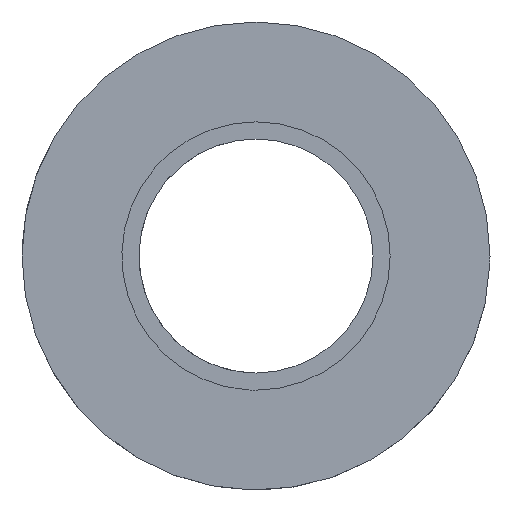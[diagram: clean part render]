
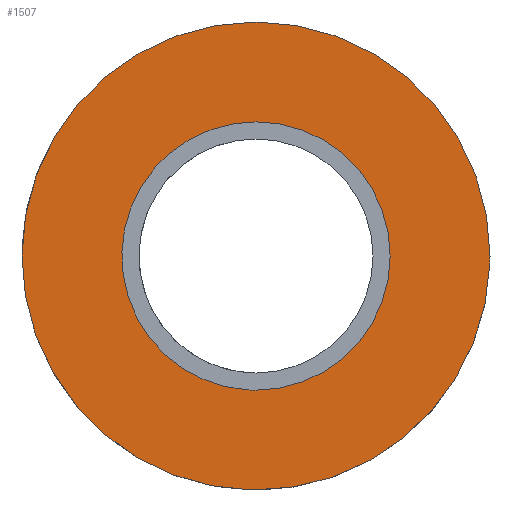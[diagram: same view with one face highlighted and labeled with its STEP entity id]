
A CAD part, left-side view. The second image highlights one B-rep face of the part: STEP entity #1507.
In plain terms, the highlighted planar face has unit normal (-1, 0, 0).
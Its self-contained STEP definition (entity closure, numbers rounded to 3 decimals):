
#500=CARTESIAN_POINT('',(0.,0.,0.));
#501=DIRECTION('',(1.,0.,0.));
#502=DIRECTION('',(0.,-1.,0.));
#503=AXIS2_PLACEMENT_3D('',#500,#501,#502);
#508=CARTESIAN_POINT('',(0.,0.,0.));
#509=DIRECTION('',(1.,0.,0.));
#510=DIRECTION('',(0.,-0.999,-0.037));
#511=AXIS2_PLACEMENT_3D('',#508,#509,#510);
#516=CARTESIAN_POINT('',(0.,0.,0.));
#517=DIRECTION('',(1.,0.,0.));
#518=DIRECTION('',(0.,1.,0.));
#519=AXIS2_PLACEMENT_3D('',#516,#517,#518);
#524=CARTESIAN_POINT('',(0.,0.,0.));
#525=DIRECTION('',(-1.,0.,0.));
#526=DIRECTION('',(0.,0.,1.));
#527=AXIS2_PLACEMENT_3D('',#524,#525,#526);
#532=CARTESIAN_POINT('',(0.,0.,0.));
#533=DIRECTION('',(-1.,0.,0.));
#534=DIRECTION('',(0.,0.064,-0.998));
#535=AXIS2_PLACEMENT_3D('',#532,#533,#534);
#540=CARTESIAN_POINT('',(0.,0.,0.));
#541=DIRECTION('',(-1.,0.,0.));
#542=DIRECTION('',(0.,0.,-1.));
#543=AXIS2_PLACEMENT_3D('',#540,#541,#542);
#1047=CARTESIAN_POINT('',(0.,0.,-8.6));
#1048=CARTESIAN_POINT('',(0.,0.,8.6));
#1049=VERTEX_POINT('',#1047);
#1050=VERTEX_POINT('',#1048);
#1051=CARTESIAN_POINT('',(0.,-14.99,
-0.554));
#1052=CARTESIAN_POINT('',(0.,15.,0.));
#1053=VERTEX_POINT('',#1051);
#1054=VERTEX_POINT('',#1052);
#1055=CARTESIAN_POINT('',(0.,-15.,
0.));
#1056=VERTEX_POINT('',#1055);
#1057=CARTESIAN_POINT('',(0.,0.554,
-8.582));
#1058=VERTEX_POINT('',#1057);
#1487=CARTESIAN_POINT('',(0.,0.,
0.));
#1488=DIRECTION('',(1.,0.,0.));
#1489=DIRECTION('',(0.,0.,1.));
#1490=AXIS2_PLACEMENT_3D('',#1487,#1488,#1489);
#1491=PLANE('',#1490);
#1493=ORIENTED_EDGE('',*,*,#1492,.T.);
#1495=ORIENTED_EDGE('',*,*,#1494,.T.);
#1497=ORIENTED_EDGE('',*,*,#1496,.T.);
#1498=EDGE_LOOP('',(#1493,#1495,#1497));
#1499=FACE_OUTER_BOUND('',#1498,.F.);
#1501=ORIENTED_EDGE('',*,*,#1500,.T.);
#1503=ORIENTED_EDGE('',*,*,#1502,.T.);
#1504=ORIENTED_EDGE('',*,*,#1470,.T.);
#1505=EDGE_LOOP('',(#1501,#1503,#1504));
#1506=FACE_BOUND('',#1505,.F.);
#504=CIRCLE('',#503,15.);
#512=CIRCLE('',#511,15.);
#520=CIRCLE('',#519,15.);
#528=CIRCLE('',#527,8.6);
#536=CIRCLE('',#535,8.6);
#544=CIRCLE('',#543,8.6);
#1470=EDGE_CURVE('',#1049,#1050,#544,.T.);
#1492=EDGE_CURVE('',#1056,#1053,#504,.T.);
#1494=EDGE_CURVE('',#1053,#1054,#512,.T.);
#1496=EDGE_CURVE('',#1054,#1056,#520,.T.);
#1500=EDGE_CURVE('',#1050,#1058,#528,.T.);
#1502=EDGE_CURVE('',#1058,#1049,#536,.T.);
#1507=ADVANCED_FACE('',(#1499,#1506),#1491,.F.);
